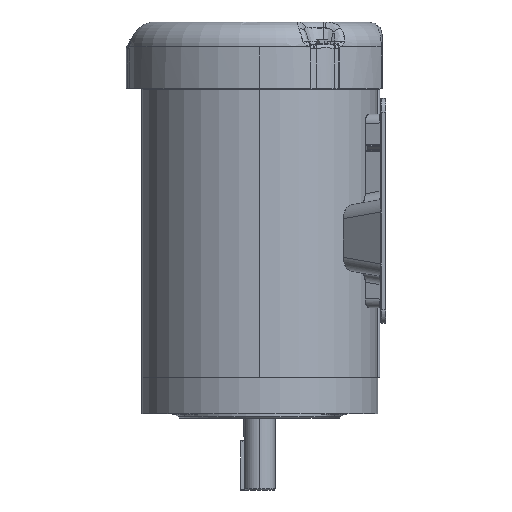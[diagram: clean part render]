
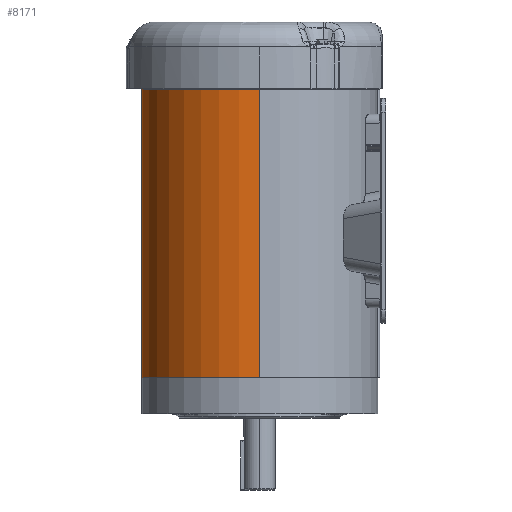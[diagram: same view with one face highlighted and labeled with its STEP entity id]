
A CAD part, left-side view. The second image highlights one B-rep face of the part: STEP entity #8171.
In plain terms, the highlighted cylindrical face has radius 83.21 mm (diameter 166.421 mm), a partial arc.
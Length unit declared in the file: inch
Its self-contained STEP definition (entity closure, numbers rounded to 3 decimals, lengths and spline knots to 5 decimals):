
#315 = VERTEX_POINT ( 'NONE', #80022 ) ;
#1410 = EDGE_CURVE ( 'NONE', #70691, #4910, #129777, .T. ) ;
#2478 = VERTEX_POINT ( 'NONE', #59616 ) ;
#3756 = VECTOR ( 'NONE', #115689, 39.37008 ) ;
#4910 = VERTEX_POINT ( 'NONE', #33046 ) ;
#6381 = CARTESIAN_POINT ( 'NONE',  ( 3.27091, 0.18433, -1.58794 ) ) ;
#8171 = ADVANCED_FACE ( 'NONE', ( #76300 ), #47563, .T. ) ;
#8442 = CARTESIAN_POINT ( 'NONE',  ( 3.25626, 0.35923, -0.58763 ) ) ;
#10352 = EDGE_CURVE ( 'NONE', #72321, #107639, #100887, .T. ) ;
#14760 = ORIENTED_EDGE ( 'NONE', *, *, #72660, .F. ) ;
#16526 = ORIENTED_EDGE ( 'NONE', *, *, #104487, .T. ) ;
#21278 = DIRECTION ( 'NONE',  ( 0., 0., 1. ) ) ;
#24056 = CARTESIAN_POINT ( 'NONE',  ( 3.276, 0., -8. ) ) ;
#27525 = CARTESIAN_POINT ( 'NONE',  ( 3.26385, 0.28215, -1.54406 ) ) ;
#29040 = ORIENTED_EDGE ( 'NONE', *, *, #120066, .F. ) ;
#29696 = EDGE_CURVE ( 'NONE', #37459, #4910, #89290, .T. ) ;
#31018 = CARTESIAN_POINT ( 'NONE',  ( 3.26966, 0.2101, -0.4994 ) ) ;
#31315 = CARTESIAN_POINT ( 'NONE',  ( 0., 0., -8. ) ) ;
#32028 = CARTESIAN_POINT ( 'NONE',  ( 3.25278, 0.38986, -0.61313 ) ) ;
#32417 = CARTESIAN_POINT ( 'NONE',  ( 3.23487, 0.5175, -0.78368 ) ) ;
#32522 = CARTESIAN_POINT ( 'NONE',  ( 3.23888, 0.49198, -0.73639 ) ) ;
#33046 = CARTESIAN_POINT ( 'NONE',  ( 3.276, 0., -1.6175 ) ) ;
#37459 = VERTEX_POINT ( 'NONE', #69556 ) ;
#39085 = CARTESIAN_POINT ( 'NONE',  ( 3.25741, 0.34914, -1.50078 ) ) ;
#40680 = CARTESIAN_POINT ( 'NONE',  ( 3.276, 0., -0.4625 ) ) ;
#40727 = LINE ( 'NONE', #106852, #121814 ) ;
#41276 = ORIENTED_EDGE ( 'NONE', *, *, #125302, .T. ) ;
#42143 = CARTESIAN_POINT ( 'NONE',  ( 3.25965, 0.32703, -0.56383 ) ) ;
#42946 = DIRECTION ( 'NONE',  ( 0., 0., -1. ) ) ;
#44109 = VECTOR ( 'NONE', #66523, 39.37008 ) ;
#44173 = CARTESIAN_POINT ( 'NONE',  ( 3.23487, 0.5175, -0.78368 ) ) ;
#47563 = CYLINDRICAL_SURFACE ( 'NONE', #147448, 3.276 ) ;
#50670 = CARTESIAN_POINT ( 'NONE',  ( 3.25033, 0.40969, -1.44789 ) ) ;
#51162 = CARTESIAN_POINT ( 'NONE',  ( 3.23487, 0.5175, -1.29632 ) ) ;
#54187 = CARTESIAN_POINT ( 'NONE',  ( 3.27335, 0.13244, -0.47773 ) ) ;
#59002 = LINE ( 'NONE', #87087, #95035 ) ;
#59265 = EDGE_CURVE ( 'NONE', #107639, #37459, #59002, .T. ) ;
#59616 = CARTESIAN_POINT ( 'NONE',  ( 3.276, 0., 0. ) ) ;
#63774 = CARTESIAN_POINT ( 'NONE',  ( 3.24324, 0.46355, -1.38855 ) ) ;
#66345 = CARTESIAN_POINT ( 'NONE',  ( 3.25741, 0.34871, -0.57947 ) ) ;
#66523 = DIRECTION ( 'NONE',  ( 0., 0., 1. ) ) ;
#68105 = CARTESIAN_POINT ( 'NONE',  ( 0., 0., -8. ) ) ;
#68596 = DIRECTION ( 'NONE',  ( 1., 0., 0. ) ) ;
#69556 = CARTESIAN_POINT ( 'NONE',  ( 3.23487, 0.5175, -1.29632 ) ) ;
#70691 = VERTEX_POINT ( 'NONE', #83282 ) ;
#70776 = AXIS2_PLACEMENT_3D ( 'NONE', #102163, #89075, #136363 ) ;
#72321 = VERTEX_POINT ( 'NONE', #40680 ) ;
#72660 = EDGE_CURVE ( 'NONE', #315, #70691, #110664, .T. ) ;
#73368 = CARTESIAN_POINT ( 'NONE',  ( 3.27559, 0.05364, -1.61516 ) ) ;
#74358 = CARTESIAN_POINT ( 'NONE',  ( 3.25966, 0.3276, -1.51633 ) ) ;
#74864 = CARTESIAN_POINT ( 'NONE',  ( 3.27339, 0.13312, -1.60258 ) ) ;
#76300 = FACE_OUTER_BOUND ( 'NONE', #89490, .T. ) ;
#77194 = ORIENTED_EDGE ( 'NONE', *, *, #10352, .T. ) ;
#77434 = CARTESIAN_POINT ( 'NONE',  ( 3.27279, 0.14558, -0.48099 ) ) ;
#80022 = CARTESIAN_POINT ( 'NONE',  ( -3.276, 0., -8. ) ) ;
#80794 = CIRCLE ( 'NONE', #70776, 3.276 ) ;
#82836 = AXIS2_PLACEMENT_3D ( 'NONE', #31315, #42946, #89849 ) ;
#83282 = CARTESIAN_POINT ( 'NONE',  ( 3.276, 0., -8. ) ) ;
#84987 = CARTESIAN_POINT ( 'NONE',  ( 3.26675, 0.24635, -1.56249 ) ) ;
#86463 = CARTESIAN_POINT ( 'NONE',  ( 3.276, 0., -1.6175 ) ) ;
#86976 = CARTESIAN_POINT ( 'NONE',  ( 3.27592, 0.02677, -1.61704 ) ) ;
#87087 = CARTESIAN_POINT ( 'NONE',  ( 3.23487, 0.5175, -8. ) ) ;
#87537 = CARTESIAN_POINT ( 'NONE',  ( 3.276, 0.02671, -0.4625 ) ) ;
#88039 = CARTESIAN_POINT ( 'NONE',  ( 3.27567, 0.05329, -0.46434 ) ) ;
#89075 = DIRECTION ( 'NONE',  ( 0., 0., -1. ) ) ;
#89290 = B_SPLINE_CURVE_WITH_KNOTS ( 'NONE', 3,
 ( #51162, #143344, #63774, #50670, #144327, #39085, #74358, #121179, #27525, #97097, #84987, #132745, #6381, #74864, #110135, #142844, #73368, #86976, #98079, #86463 ),
 .UNSPECIFIED., .F., .F.,
 ( 4, 2, 2, 2, 2, 2, 2, 2, 2, 4 ),
 ( 0., 0.00406, 0.0061, 0.00813, 0.00914, 0.01016, 0.01219, 0.01422, 0.01524, 0.01625 ),
 .UNSPECIFIED. ) ;
#89490 = EDGE_LOOP ( 'NONE', ( #14760, #16526, #41276, #29040, #77194, #114182, #145041, #129739 ) ) ;
#89849 = DIRECTION ( 'NONE',  ( -1., 0., 0. ) ) ;
#95035 = VECTOR ( 'NONE', #109760, 39.37008 ) ;
#95278 = DIRECTION ( 'NONE',  ( 0., 0., 1. ) ) ;
#96018 = VERTEX_POINT ( 'NONE', #130552 ) ;
#97097 = CARTESIAN_POINT ( 'NONE',  ( 3.26581, 0.25849, -1.55659 ) ) ;
#98079 = CARTESIAN_POINT ( 'NONE',  ( 3.276, 0.01337, -1.6175 ) ) ;
#100887 = B_SPLINE_CURVE_WITH_KNOTS ( 'NONE', 3,
 ( #143906, #87537, #88039, #101119, #101622, #54187, #77434, #31018, #122697, #111190, #42143, #66345, #8442, #32028, #112179, #111684, #112678, #32522, #145879, #44173 ),
 .UNSPECIFIED., .F., .F.,
 ( 4, 2, 2, 2, 2, 2, 2, 2, 2, 4 ),
 ( 0.01625, 0.01828, 0.0193, 0.02031, 0.02437, 0.02539, 0.0264, 0.02843, 0.03046, 0.03249 ),
 .UNSPECIFIED. ) ;
#101119 = CARTESIAN_POINT ( 'NONE',  ( 3.27471, 0.09295, -0.46987 ) ) ;
#101622 = CARTESIAN_POINT ( 'NONE',  ( 3.27431, 0.10613, -0.47218 ) ) ;
#102163 = CARTESIAN_POINT ( 'NONE',  ( 0., 0., 0. ) ) ;
#104487 = EDGE_CURVE ( 'NONE', #315, #96018, #40727, .T. ) ;
#106852 = CARTESIAN_POINT ( 'NONE',  ( -3.276, 0., -8. ) ) ;
#107639 = VERTEX_POINT ( 'NONE', #32417 ) ;
#109760 = DIRECTION ( 'NONE',  ( 0., 0., -1. ) ) ;
#110135 = CARTESIAN_POINT ( 'NONE',  ( 3.27436, 0.10702, -1.60813 ) ) ;
#110664 = CIRCLE ( 'NONE', #82836, 3.276 ) ;
#111190 = CARTESIAN_POINT ( 'NONE',  ( 3.26076, 0.31584, -0.55634 ) ) ;
#111684 = CARTESIAN_POINT ( 'NONE',  ( 3.24569, 0.44496, -0.67091 ) ) ;
#112179 = CARTESIAN_POINT ( 'NONE',  ( 3.25041, 0.40906, -0.63148 ) ) ;
#112678 = CARTESIAN_POINT ( 'NONE',  ( 3.24333, 0.46174, -0.69212 ) ) ;
#114182 = ORIENTED_EDGE ( 'NONE', *, *, #59265, .T. ) ;
#115689 = DIRECTION ( 'NONE',  ( 0., 0., 1. ) ) ;
#120066 = EDGE_CURVE ( 'NONE', #72321, #2478, #139643, .T. ) ;
#121179 = CARTESIAN_POINT ( 'NONE',  ( 3.26283, 0.29371, -1.53741 ) ) ;
#121814 = VECTOR ( 'NONE', #95278, 39.37008 ) ;
#122697 = CARTESIAN_POINT ( 'NONE',  ( 3.26609, 0.25875, -0.52092 ) ) ;
#125302 = EDGE_CURVE ( 'NONE', #96018, #2478, #80794, .T. ) ;
#129739 = ORIENTED_EDGE ( 'NONE', *, *, #1410, .F. ) ;
#129777 = LINE ( 'NONE', #24056, #3756 ) ;
#130552 = CARTESIAN_POINT ( 'NONE',  ( -3.276, 0., 0. ) ) ;
#132745 = CARTESIAN_POINT ( 'NONE',  ( 3.26939, 0.20944, -1.57886 ) ) ;
#136363 = DIRECTION ( 'NONE',  ( -1., 0., 0. ) ) ;
#139643 = LINE ( 'NONE', #146051, #44109 ) ;
#142844 = CARTESIAN_POINT ( 'NONE',  ( 3.27534, 0.06712, -1.61374 ) ) ;
#143344 = CARTESIAN_POINT ( 'NONE',  ( 3.2387, 0.49355, -1.34467 ) ) ;
#143906 = CARTESIAN_POINT ( 'NONE',  ( 3.276, 0., -0.4625 ) ) ;
#144327 = CARTESIAN_POINT ( 'NONE',  ( 3.25275, 0.39013, -1.46663 ) ) ;
#145041 = ORIENTED_EDGE ( 'NONE', *, *, #29696, .T. ) ;
#145879 = CARTESIAN_POINT ( 'NONE',  ( 3.23678, 0.50554, -0.75952 ) ) ;
#146051 = CARTESIAN_POINT ( 'NONE',  ( 3.276, 0., -8. ) ) ;
#147448 = AXIS2_PLACEMENT_3D ( 'NONE', #68105, #21278, #68596 ) ;
